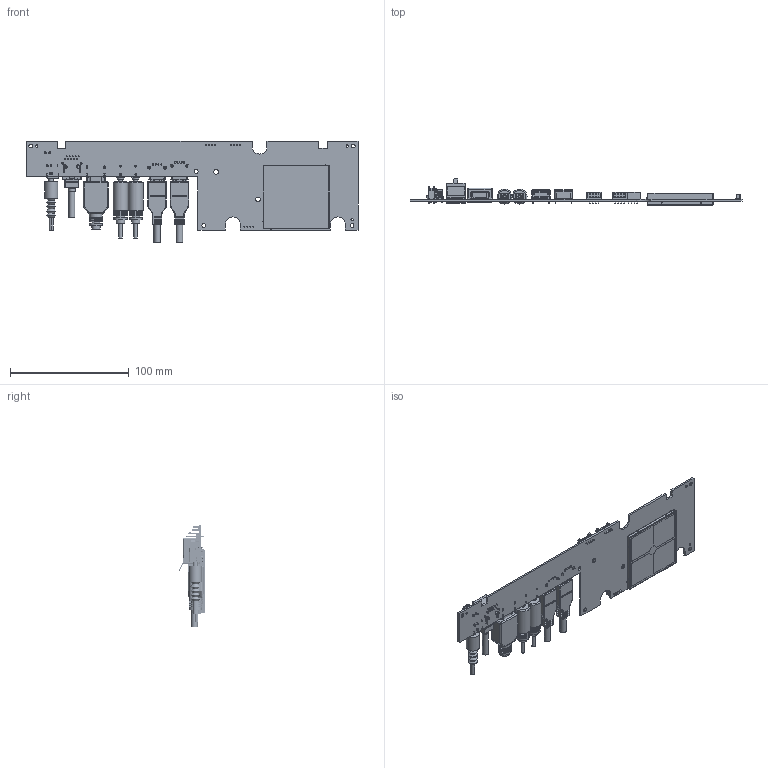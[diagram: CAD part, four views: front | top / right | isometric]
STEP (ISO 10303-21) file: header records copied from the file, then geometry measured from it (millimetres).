
FILE_DESCRIPTION((''),'2;1');
FILE_NAME('SWAN_PCB_ASSEMBLY_ASM','2020-08-14T',('G6003023'),(''),'PRO/ENGINEER BY PARAMETRIC TECHNOLOGY CORPORATION, 2013150','PRO/ENGINEER BY PARAMETRIC TECHNOLOGY CORPORATION, 2013150','');
FILE_SCHEMA(('CONFIG_CONTROL_DESIGN'));
Products named in the file (58): SWAN_PCB; SHD-6012D01-BLTN-T1-CUSTOMER; F860; MSBR-21; MSBR-20; MSBR-19; MSBR-18; MSBR-17; MSBR-16; MSBR-15; MSBR-14; MSBR-13; MSBR-12; MSBR-11; MSBR-10; MSBR-9; MSBR-8; MSBR-7; MSBR-6; MSBR-5; MSBR-4; MSBR-3; MSBR-2; MSBR-1; QJ-WFB4-IM_0325_ASM; 2SJ2296-000111; MSBR-1-011; _UB1112C-4K1-4F_3D-01; UB1112C-4K1-4F_3D-01_ASM; UEA1112C-4HK1-4F_3D; 86514-02XX_REV-1; POWER-PLUG; USB_PLUG; HDMI_CABLE_1; RJ45_PLUG; AUX_PLUG; B4B-EH-A; MSBR-13-001; MSBR-12-001; MSBR-11-001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
Assembly tree (63 placements, depth 3):
  SWAN_PCB_ASSEMBLY_ASM
    SWAN_PCB
    SHD-6012D01-BLTN-T1-CUSTOMER
    F860
    QJ-WFB4-IM_0325_ASM
      MSBR-21
      MSBR-20
      MSBR-19
      MSBR-18
      MSBR-17
      MSBR-16
      MSBR-15
      MSBR-14
      MSBR-13
      MSBR-12
      MSBR-11
      MSBR-10
      MSBR-9
      MSBR-8
      MSBR-7
      MSBR-6
      MSBR-5
      MSBR-4
      MSBR-3
      MSBR-2
      MSBR-1
    2SJ2296-000111  x2
    UB1112C-4K1-4F_3D-01_ASM
      MSBR-1-011
      _UB1112C-4K1-4F_3D-01
    UEA1112C-4HK1-4F_3D
    86514-02XX_REV-1
    POWER-PLUG
    USB_PLUG  x2
    HDMI_CABLE_1
    RJ45_PLUG
    AUX_PLUG  x2
    B4B-EH-A  x3
    HS6110E-10PIN_ASM  x2
      MSBR-13-001
      MSBR-12-001
      MSBR-11-001
      MSBR-10-001
      MSBR-9-001
      MSBR-8-001
      MSBR-7-001
      MSBR-6-001
      MSBR-5-001
      MSBR-4-001
      MSBR-3-001
      MSBR-2-001
      MSBR-1-001
    HS6108E-8PIN-VERTICAL
    SHIELDING_SOC_ASSY_ASM
      SHIELDING_FRAME_SOC-2
    SHIELDING_BOTTOM_ASSY_ASM
      SHIELDING_FRAME_SOC
      SHIELDING_COVER_SOC
Bounding box: 280 x 21.98 x 85.46 mm (x, y, z)
Volume: 58752.6 mm3; surface area: 78850.5 mm2
Topology: 69 solids, 98 shells, 11137 faces, 31159 edges, 20265 vertices
Faces by surface type: plane 8176, cylinder 2403, bspline 197, extrusion 123, sphere 92, torus 74, cone 72
Entity records: 298474 total; most frequent: CARTESIAN_POINT 61798, ORIENTED_EDGE 50624, DIRECTION 46714, EDGE_CURVE 25312, VECTOR 20414, LINE 20293, VERTEX_POINT 16470, AXIS2_PLACEMENT_3D 13150
